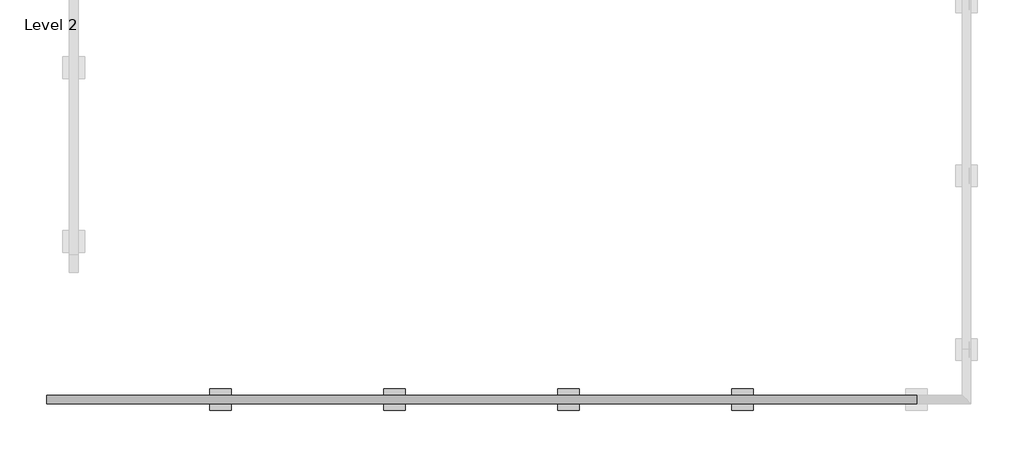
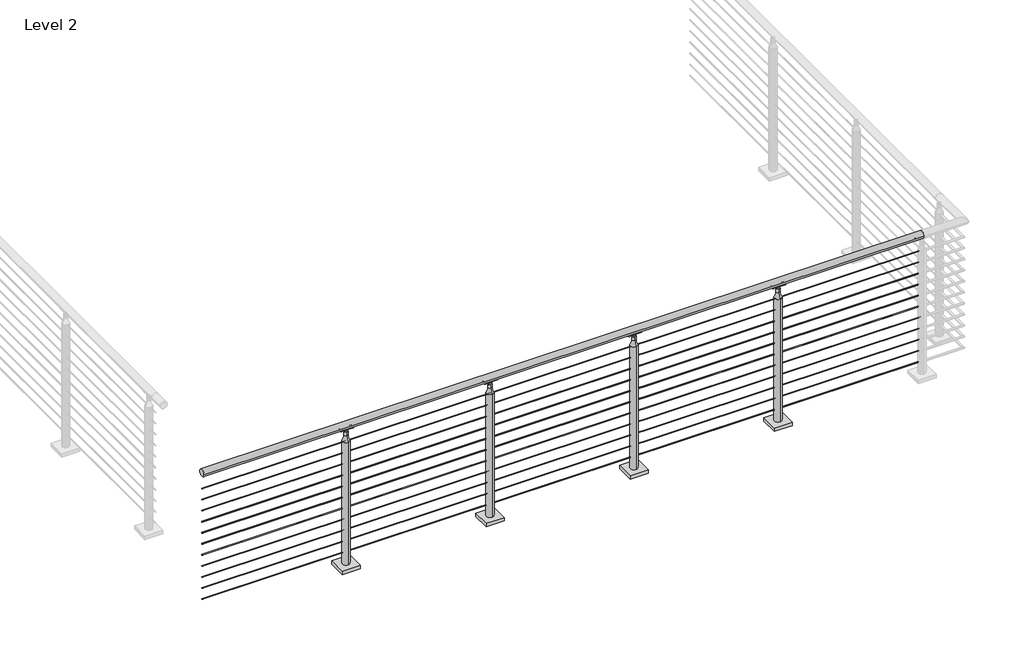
# One storey, part 11 of 21: 1 railing.
"""IFC4 building model written with IfcOpenShell, lengths in millimetres."""

from ifc_helpers import new_model, si_unit, point, frame, frame_2d, origin, place, context, project, spatial, polyline, circle_curve, ellipse_curve, trimmed, segment, composite_curve, outline, extrude, element, save
from ifc_brep_helpers import plane_surface, cylinder_surface, revolved_surface, advanced_brep

model = new_model("IFC4")

# Units and contexts
model_context = context("Model", 3, world=origin())
ifc_project = project(units=[si_unit("LENGTHUNIT", "METRE", prefix="MILLI")], contexts=[model_context])

# Site, building, storey
site = spatial("IfcSite", under=ifc_project)
building = spatial("IfcBuilding", under=site)
storey = spatial("IfcBuildingStorey", under=building, Name="Level 2", Elevation=3048.0)

# Railing
placement = place(None, origin())
element("IfcRailing", 1, ObjectType="VIVA-CIRCA-Cable-Floor Mount-Straight", at=placement, inside=storey, context=model_context, shape_type="SolidModel", body=[
    extrude(outline(composite_curve([segment(trimmed(circle_curve(frame_2d((-52104.7426165, 4102.1)), 25.4), [point((-52130.1426165, 4102.1))], [point((-52079.3426165, 4102.1))], False, "CARTESIAN"), True, "CONTINUOUS"), segment(trimmed(circle_curve(frame_2d((-52104.7426165, 4102.1)), 25.4), [point((-52079.3426165, 4102.1))], [point((-52130.1426165, 4102.1))], False, "CARTESIAN"), True, "CONTINUOUS")], self_intersect=False)), frame((15443.0072927, 0.0, 0.0), z_axis=(1.0, 0.0, 0.0), x_axis=(0.0, 1.0, 0.0)), (0.0, 0.0, 1.0), 5080.0),
    extrude(outline(composite_curve([segment(trimmed(circle_curve(frame_2d((-52104.7426165, 3985.4124)), 2.3876), [point((-52102.3550165, 3985.4124))], [point((-52107.1302165, 3985.4124))], False, "CARTESIAN"), True, "CONTINUOUS"), segment(trimmed(circle_curve(frame_2d((-52104.7426165, 3985.4124)), 2.3876), [point((-52107.1302165, 3985.4124))], [point((-52102.3550165, 3985.4124))], False, "CARTESIAN"), True, "CONTINUOUS")], self_intersect=False)), frame((15443.0072927, 0.0, 0.0), z_axis=(1.0, 0.0, 0.0), x_axis=(0.0, 1.0, 0.0)), (0.0, 0.0, 1.0), 5080.0),
    extrude(outline(composite_curve([segment(trimmed(circle_curve(frame_2d((-52104.7426165, 3902.8624)), 2.3876), [point((-52102.3550165, 3902.8624))], [point((-52107.1302165, 3902.8624))], False, "CARTESIAN"), True, "CONTINUOUS"), segment(trimmed(circle_curve(frame_2d((-52104.7426165, 3902.8624)), 2.3876), [point((-52107.1302165, 3902.8624))], [point((-52102.3550165, 3902.8624))], False, "CARTESIAN"), True, "CONTINUOUS")], self_intersect=False)), frame((15443.0072927, 0.0, 0.0), z_axis=(1.0, 0.0, 0.0), x_axis=(0.0, 1.0, 0.0)), (0.0, 0.0, 1.0), 5080.0),
    extrude(outline(composite_curve([segment(trimmed(circle_curve(frame_2d((-52104.7426165, 3820.3124)), 2.3876), [point((-52102.3550165, 3820.3124))], [point((-52107.1302165, 3820.3124))], False, "CARTESIAN"), True, "CONTINUOUS"), segment(trimmed(circle_curve(frame_2d((-52104.7426165, 3820.3124)), 2.3876), [point((-52107.1302165, 3820.3124))], [point((-52102.3550165, 3820.3124))], False, "CARTESIAN"), True, "CONTINUOUS")], self_intersect=False)), frame((15443.0072927, 0.0, 0.0), z_axis=(1.0, 0.0, 0.0), x_axis=(0.0, 1.0, 0.0)), (0.0, 0.0, 1.0), 5080.0),
    extrude(outline(composite_curve([segment(trimmed(circle_curve(frame_2d((-52104.7426165, 3737.7624)), 2.3876), [point((-52102.3550165, 3737.7624))], [point((-52107.1302165, 3737.7624))], False, "CARTESIAN"), True, "CONTINUOUS"), segment(trimmed(circle_curve(frame_2d((-52104.7426165, 3737.7624)), 2.3876), [point((-52107.1302165, 3737.7624))], [point((-52102.3550165, 3737.7624))], False, "CARTESIAN"), True, "CONTINUOUS")], self_intersect=False)), frame((15443.0072927, 0.0, 0.0), z_axis=(1.0, 0.0, 0.0), x_axis=(0.0, 1.0, 0.0)), (0.0, 0.0, 1.0), 5080.0),
    extrude(outline(composite_curve([segment(trimmed(circle_curve(frame_2d((-52104.7426165, 3655.2124)), 2.3876), [point((-52102.3550165, 3655.2124))], [point((-52107.1302165, 3655.2124))], False, "CARTESIAN"), True, "CONTINUOUS"), segment(trimmed(circle_curve(frame_2d((-52104.7426165, 3655.2124)), 2.3876), [point((-52107.1302165, 3655.2124))], [point((-52102.3550165, 3655.2124))], False, "CARTESIAN"), True, "CONTINUOUS")], self_intersect=False)), frame((15443.0072927, 0.0, 0.0), z_axis=(1.0, 0.0, 0.0), x_axis=(0.0, 1.0, 0.0)), (0.0, 0.0, 1.0), 5080.0),
    extrude(outline(composite_curve([segment(trimmed(circle_curve(frame_2d((-52104.7426165, 3572.6624)), 2.3876), [point((-52102.3550165, 3572.6624))], [point((-52107.1302165, 3572.6624))], False, "CARTESIAN"), True, "CONTINUOUS"), segment(trimmed(circle_curve(frame_2d((-52104.7426165, 3572.6624)), 2.3876), [point((-52107.1302165, 3572.6624))], [point((-52102.3550165, 3572.6624))], False, "CARTESIAN"), True, "CONTINUOUS")], self_intersect=False)), frame((15443.0072927, 0.0, 0.0), z_axis=(1.0, 0.0, 0.0), x_axis=(0.0, 1.0, 0.0)), (0.0, 0.0, 1.0), 5080.0),
    extrude(outline(composite_curve([segment(trimmed(circle_curve(frame_2d((-52104.7426165, 3490.1124)), 2.3876), [point((-52102.3550165, 3490.1124))], [point((-52107.1302165, 3490.1124))], False, "CARTESIAN"), True, "CONTINUOUS"), segment(trimmed(circle_curve(frame_2d((-52104.7426165, 3490.1124)), 2.3876), [point((-52107.1302165, 3490.1124))], [point((-52102.3550165, 3490.1124))], False, "CARTESIAN"), True, "CONTINUOUS")], self_intersect=False)), frame((15443.0072927, 0.0, 0.0), z_axis=(1.0, 0.0, 0.0), x_axis=(0.0, 1.0, 0.0)), (0.0, 0.0, 1.0), 5080.0),
    extrude(outline(composite_curve([segment(trimmed(circle_curve(frame_2d((-52104.7426165, 3407.5624)), 2.3876), [point((-52102.3550165, 3407.5624))], [point((-52107.1302165, 3407.5624))], False, "CARTESIAN"), True, "CONTINUOUS"), segment(trimmed(circle_curve(frame_2d((-52104.7426165, 3407.5624)), 2.3876), [point((-52107.1302165, 3407.5624))], [point((-52102.3550165, 3407.5624))], False, "CARTESIAN"), True, "CONTINUOUS")], self_intersect=False)), frame((15443.0072927, 0.0, 0.0), z_axis=(1.0, 0.0, 0.0), x_axis=(0.0, 1.0, 0.0)), (0.0, 0.0, 1.0), 5080.0),
    extrude(outline(composite_curve([segment(trimmed(circle_curve(frame_2d((-52104.7426165, 3325.0124)), 2.3876), [point((-52102.3550165, 3325.0124))], [point((-52107.1302165, 3325.0124))], False, "CARTESIAN"), True, "CONTINUOUS"), segment(trimmed(circle_curve(frame_2d((-52104.7426165, 3325.0124)), 2.3876), [point((-52107.1302165, 3325.0124))], [point((-52102.3550165, 3325.0124))], False, "CARTESIAN"), True, "CONTINUOUS")], self_intersect=False)), frame((15443.0072927, 0.0, 0.0), z_axis=(1.0, 0.0, 0.0), x_axis=(0.0, 1.0, 0.0)), (0.0, 0.0, 1.0), 5080.0),
    extrude(outline(composite_curve([segment(trimmed(circle_curve(frame_2d((-52104.7426165, 3242.4624)), 2.3876), [point((-52102.3550165, 3242.4624))], [point((-52107.1302165, 3242.4624))], False, "CARTESIAN"), True, "CONTINUOUS"), segment(trimmed(circle_curve(frame_2d((-52104.7426165, 3242.4624)), 2.3876), [point((-52107.1302165, 3242.4624))], [point((-52102.3550165, 3242.4624))], False, "CARTESIAN"), True, "CONTINUOUS")], self_intersect=False)), frame((15443.0072927, 0.0, 0.0), z_axis=(1.0, 0.0, 0.0), x_axis=(0.0, 1.0, 0.0)), (0.0, 0.0, 1.0), 5080.0),
    extrude(outline(composite_curve([segment(trimmed(circle_curve(frame_2d((-52104.7426165, 3159.9124)), 2.3876), [point((-52102.3550165, 3159.9124))], [point((-52107.1302165, 3159.9124))], False, "CARTESIAN"), True, "CONTINUOUS"), segment(trimmed(circle_curve(frame_2d((-52104.7426165, 3159.9124)), 2.3876), [point((-52107.1302165, 3159.9124))], [point((-52102.3550165, 3159.9124))], False, "CARTESIAN"), True, "CONTINUOUS")], self_intersect=False)), frame((15443.0072927, 0.0, 0.0), z_axis=(1.0, 0.0, 0.0), x_axis=(0.0, 1.0, 0.0)), (0.0, 0.0, 1.0), 5080.0),
    extrude(outline(composite_curve([segment(trimmed(circle_curve(frame_2d((-52104.6458882, 4103.4254922)), 25.4345159), [point((-52117.2096911, 4081.3106679))], [point((-52092.2506544, 4081.2157471))], True, "CARTESIAN"), True, "CONTINUOUS"), segment(trimmed(circle_curve(frame_2d((-52091.0060013, 4078.7132623)), 2.7949225), [point((-52092.2506544, 4081.2157471))], [point((-52089.5286962, 4076.3406769))], False, "CARTESIAN"), True, "CONTINUOUS"), segment(trimmed(circle_curve(frame_2d((-52104.7793513, 4104.1881188)), 31.75), [point((-52089.5286962, 4076.3406769))], [point((-52121.0455885, 4076.9214354))], False, "CARTESIAN"), True, "CONTINUOUS"), segment(trimmed(circle_curve(frame_2d((-52118.7572487, 4078.7923545)), 2.9558141), [point((-52121.0455885, 4076.9214354))], [point((-52117.2096911, 4081.3106679))], False, "CARTESIAN"), True, "CONTINUOUS")], self_intersect=False)), frame((19462.1667677, 0.0, 0.0), z_axis=(1.0, 0.0, 0.0), x_axis=(0.0, 1.0, 0.0)), (0.0, 0.0, 1.0), 90.4748),
    advanced_brep(
    [(19534.4720826, -52102.2026165, 4072.6506908), (19520.1041677, -52102.2026165, 4058.282776), (19494.7041677, -52102.2026165, 4058.282776), (19480.3362528, -52102.2026165, 4072.6506908), (19534.4720826, -52107.2826165, 4072.6506908), (19480.3362528, -52107.2826165, 4072.6506908), (19494.7041677, -52107.2826165, 4058.282776), (19520.1041677, -52107.2826165, 4058.282776)],
    [
        (0, 1, circle_curve(frame((19534.4720826, -52102.2026165, 4058.282776), z_axis=(0.0, -1.0, 0.0), x_axis=(-1.0, 0.0, 0.0)), 14.3679149)),
        (1, 2, circle_curve(frame((19507.4041677, -52102.2026165, 4058.282776), z_axis=(0.0, 1.0, 0.0), x_axis=(-1.0, 0.0, 0.0)), 12.7)),
        (2, 3, circle_curve(frame((19480.3362528, -52102.2026165, 4058.282776), z_axis=(0.0, -1.0, 0.0), x_axis=(-1.0, 0.0, 0.0)), 14.3679149)),
        (3, 0),
        (4, 5),
        (5, 6, circle_curve(frame((19480.3362528, -52107.2826165, 4058.282776), z_axis=(0.0, 1.0, 0.0), x_axis=(-1.0, 0.0, 0.0)), 14.3679149)),
        (6, 7, circle_curve(frame((19507.4041677, -52107.2826165, 4058.282776), z_axis=(0.0, -1.0, 0.0), x_axis=(-1.0, 0.0, 0.0)), 12.7)),
        (7, 4, circle_curve(frame((19534.4720826, -52107.2826165, 4058.282776), z_axis=(0.0, 1.0, 0.0), x_axis=(-1.0, 0.0, 0.0)), 14.3679149)),
        (0, 4),
        (7, 1),
        (6, 2),
        (5, 3),
    ],
    [
        plane_surface(frame((19520.1041677, -52102.2026165, 4058.282776), z_axis=(0.0, 1.0, 0.0), x_axis=(0.0, 0.0, -1.0))),
        plane_surface(frame((19520.1041677, -52107.2826165, 4058.282776), z_axis=(0.0, -1.0, 0.0), x_axis=(0.0, 0.0, 1.0))),
        revolved_surface(polyline([(19520.1041677, -52107.2826165, 4058.282776), (19520.1041677, -52102.2026165, 4058.282776)]), (19534.4720826, -52107.2826165, 4058.282776), (0.0, -1.0, 0.0)),
        cylinder_surface(frame((19507.4041677, -52107.2826165, 4058.282776), z_axis=(0.0, 1.0, 0.0), x_axis=(-1.0, 0.0, 0.0)), 12.7),
        revolved_surface(polyline([(19465.968337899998, -52107.2826165, 4058.282776), (19465.968337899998, -52102.2026165, 4058.282776)]), (19480.3362528, -52107.2826165, 4058.282776), (0.0, -1.0, 0.0)),
        plane_surface(frame((19480.3362528, -52102.2026165, 4072.6506908), z_axis=(0.0, 0.0, 1.0), x_axis=(0.0, -1.0, 0.0))),
    ],
    [
        (0, [[1, 2, 3, 4]]),
        (1, [[5, 6, 7, 8]]),
        (2, [[-1, 9, -8, 10]]),
        (3, [[-2, -10, -7, 11]]),
        (4, [[-3, -11, -6, 12]]),
        (5, [[-4, -12, -5, -9]]),
    ],
),
    extrude(outline(polyline([(19443.9041677, -52168.2426165), (19443.9041677, -52041.2426165), (19570.9041677, -52041.2426165), (19570.9041677, -52168.2426165), (19443.9041677, -52168.2426165)])), frame((0.0, 0.0, 3048.0), z_axis=(0.0, 0.0, 1.0), x_axis=(1.0, 0.0, 0.0)), (0.0, 0.0, 1.0), 25.4),
    advanced_brep(
    [(19507.4041677, -52130.1420143, 3989.1347854), (19507.4041677, -52079.3432187, 3989.1347854), (19507.4041677, -52079.3432187, 3073.4), (19507.4041677, -52130.1420143, 3073.4), (19507.4041677, -52117.4805851, 4027.3486202), (19507.4041677, -52092.004648, 4027.3486202), (19507.4041677, -52117.4805851, 4056.5779599), (19507.4041677, -52092.004648, 4056.5779599), (19507.4041677, -52104.7426165, 4063.238668), (19507.4041677, -52104.7426165, 3073.4)],
    [
        (0, 1, circle_curve(frame((19507.4041677, -52104.7426165, 3989.1347854), z_axis=(0.0, 0.0, -1.0), x_axis=(0.0, 1.0, 0.0)), 25.3993978)),
        (1, 2),
        (2, 3, circle_curve(frame((19507.4041677, -52104.7426165, 3073.4), z_axis=(0.0, 0.0, 1.0), x_axis=(0.0, 1.0, 0.0)), 25.3993978)),
        (3, 0),
        (1, 0, circle_curve(frame((19507.4041677, -52104.7426165, 3989.1347854), z_axis=(0.0, 0.0, -1.0), x_axis=(0.0, 1.0, 0.0)), 25.3993978)),
        (3, 2, circle_curve(frame((19507.4041677, -52104.7426165, 3073.4), z_axis=(0.0, 0.0, 1.0), x_axis=(0.0, 1.0, 0.0)), 25.3993978)),
        (4, 5, circle_curve(frame((19507.4041677, -52104.7426165, 4027.3486202), z_axis=(0.0, 0.0, -1.0), x_axis=(0.0, 1.0, 0.0)), 12.7379685)),
        (5, 1, circle_curve(frame((19507.4041677, -52028.0067797, 4027.3486202), z_axis=(1.0, 0.0, 0.0), x_axis=(0.0, 1.0, 0.0)), 63.9978683)),
        (0, 4, circle_curve(frame((19507.4041677, -52181.4784534, 4027.3486202), z_axis=(1.0, 0.0, 0.0), x_axis=(0.0, -1.0, 0.0)), 63.9978683)),
        (5, 4, circle_curve(frame((19507.4041677, -52104.7426165, 4027.3486202), z_axis=(0.0, 0.0, -1.0), x_axis=(0.0, 1.0, 0.0)), 12.7379685)),
        (6, 7, circle_curve(frame((19507.4041677, -52104.7426165, 4056.5779599), z_axis=(0.0, 0.0, -1.0), x_axis=(0.0, 1.0, 0.0)), 12.7379685)),
        (7, 5),
        (4, 6),
        (7, 6, circle_curve(frame((19507.4041677, -52104.7426165, 4056.5779599), z_axis=(0.0, 0.0, -1.0), x_axis=(0.0, 1.0, 0.0)), 12.7379685)),
        (8, 7, circle_curve(frame((19507.4041677, -52104.7426165, 4047.7282394), z_axis=(-1.0, 0.0, 0.0), x_axis=(0.0, 1.0, 0.0)), 15.5104286)),
        (6, 8, circle_curve(frame((19507.4041677, -52104.7426165, 4047.7282394), z_axis=(-1.0, 0.0, 0.0), x_axis=(0.0, -1.0, 0.0)), 15.5104286)),
        (2, 9),
        (9, 3),
    ],
    [
        cylinder_surface(frame((19507.4041677, -52104.7426165, 4152.9), z_axis=(0.0, 0.0, 1.0), x_axis=(0.0, 1.0, 0.0)), 25.3993978),
        revolved_surface(trimmed(ellipse_curve(frame((19507.4041677, -52028.0067797, 4027.3486202), z_axis=(-1.0, 0.0, 0.0), x_axis=(0.0, 1.0, 0.0)), 63.9978683, 63.9978683), [point((19507.4041677, -52079.3432187, 3989.1347854))], [point((19507.4041677, -52092.004648, 4027.3486202))], True, "CARTESIAN"), (19507.4041677, -52104.7426165, 4152.9), (0.0, 0.0, 1.0)),
        cylinder_surface(frame((19507.4041677, -52104.7426165, 4152.9), z_axis=(0.0, 0.0, 1.0), x_axis=(0.0, 1.0, 0.0)), 12.7379685),
        revolved_surface(trimmed(ellipse_curve(frame((19507.4041677, -52104.7426165, 4047.7282394), z_axis=(1.0, 0.0, 0.0), x_axis=(0.0, 1.0, 0.0)), 15.5104286, 15.5104286), [point((19507.4041677, -52092.004648, 4056.5779599))], [point((19507.4041677, -52104.7426165, 4063.238668))], True, "CARTESIAN"), (19507.4041677, -52104.7426165, 4152.9), (0.0, 0.0, 1.0)),
        plane_surface(frame((19507.4041677, -52104.7426165, 3073.4), z_axis=(0.0, 0.0, -1.0), x_axis=(0.0, 1.0, 0.0))),
    ],
    [
        (0, [[1, 2, 3, 4]]),
        (0, [[5, -4, 6, -2]]),
        (1, [[7, 8, -1, 9]]),
        (1, [[10, -9, -5, -8]]),
        (2, [[11, 12, -7, 13]]),
        (2, [[14, -13, -10, -12]]),
        (3, [[15, -11, 16]]),
        (3, [[-16, -14, -15]]),
        (4, [[-3, 17, 18]]),
        (4, [[-6, -18, -17]]),
    ],
),
    extrude(outline(composite_curve([segment(trimmed(circle_curve(frame_2d((-52104.6458882, 4103.4254922)), 25.4345159), [point((-52117.2096911, 4081.3106679))], [point((-52092.2506544, 4081.2157471))], True, "CARTESIAN"), True, "CONTINUOUS"), segment(trimmed(circle_curve(frame_2d((-52091.0060013, 4078.7132623)), 2.7949225), [point((-52092.2506544, 4081.2157471))], [point((-52089.5286962, 4076.3406769))], False, "CARTESIAN"), True, "CONTINUOUS"), segment(trimmed(circle_curve(frame_2d((-52104.7793513, 4104.1881188)), 31.75), [point((-52089.5286962, 4076.3406769))], [point((-52121.0455885, 4076.9214354))], False, "CARTESIAN"), True, "CONTINUOUS"), segment(trimmed(circle_curve(frame_2d((-52118.7572487, 4078.7923545)), 2.9558141), [point((-52121.0455885, 4076.9214354))], [point((-52117.2096911, 4081.3106679))], False, "CARTESIAN"), True, "CONTINUOUS")], self_intersect=False)), frame((18446.1667677, 0.0, 0.0), z_axis=(1.0, 0.0, 0.0), x_axis=(0.0, 1.0, 0.0)), (0.0, 0.0, 1.0), 90.4748),
    advanced_brep(
    [(18518.4720826, -52102.2026165, 4072.6506908), (18504.1041677, -52102.2026165, 4058.282776), (18478.7041677, -52102.2026165, 4058.282776), (18464.3362528, -52102.2026165, 4072.6506908), (18518.4720826, -52107.2826165, 4072.6506908), (18464.3362528, -52107.2826165, 4072.6506908), (18478.7041677, -52107.2826165, 4058.282776), (18504.1041677, -52107.2826165, 4058.282776)],
    [
        (0, 1, circle_curve(frame((18518.4720826, -52102.2026165, 4058.282776), z_axis=(0.0, -1.0, 0.0), x_axis=(-1.0, 0.0, 0.0)), 14.3679149)),
        (1, 2, circle_curve(frame((18491.4041677, -52102.2026165, 4058.282776), z_axis=(0.0, 1.0, 0.0), x_axis=(-1.0, 0.0, 0.0)), 12.7)),
        (2, 3, circle_curve(frame((18464.3362528, -52102.2026165, 4058.282776), z_axis=(0.0, -1.0, 0.0), x_axis=(-1.0, 0.0, 0.0)), 14.3679149)),
        (3, 0),
        (4, 5),
        (5, 6, circle_curve(frame((18464.3362528, -52107.2826165, 4058.282776), z_axis=(0.0, 1.0, 0.0), x_axis=(-1.0, 0.0, 0.0)), 14.3679149)),
        (6, 7, circle_curve(frame((18491.4041677, -52107.2826165, 4058.282776), z_axis=(0.0, -1.0, 0.0), x_axis=(-1.0, 0.0, 0.0)), 12.7)),
        (7, 4, circle_curve(frame((18518.4720826, -52107.2826165, 4058.282776), z_axis=(0.0, 1.0, 0.0), x_axis=(-1.0, 0.0, 0.0)), 14.3679149)),
        (0, 4),
        (7, 1),
        (6, 2),
        (5, 3),
    ],
    [
        plane_surface(frame((18504.1041677, -52102.2026165, 4058.282776), z_axis=(0.0, 1.0, 0.0), x_axis=(0.0, 0.0, -1.0))),
        plane_surface(frame((18504.1041677, -52107.2826165, 4058.282776), z_axis=(0.0, -1.0, 0.0), x_axis=(0.0, 0.0, 1.0))),
        revolved_surface(polyline([(18504.1041677, -52107.2826165, 4058.282776), (18504.1041677, -52102.2026165, 4058.282776)]), (18518.4720826, -52107.2826165, 4058.282776), (0.0, -1.0, 0.0)),
        cylinder_surface(frame((18491.4041677, -52107.2826165, 4058.282776), z_axis=(0.0, 1.0, 0.0), x_axis=(-1.0, 0.0, 0.0)), 12.7),
        revolved_surface(polyline([(18449.968337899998, -52107.2826165, 4058.282776), (18449.968337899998, -52102.2026165, 4058.282776)]), (18464.3362528, -52107.2826165, 4058.282776), (0.0, -1.0, 0.0)),
        plane_surface(frame((18464.3362528, -52102.2026165, 4072.6506908), z_axis=(0.0, 0.0, 1.0), x_axis=(0.0, -1.0, 0.0))),
    ],
    [
        (0, [[1, 2, 3, 4]]),
        (1, [[5, 6, 7, 8]]),
        (2, [[-1, 9, -8, 10]]),
        (3, [[-2, -10, -7, 11]]),
        (4, [[-3, -11, -6, 12]]),
        (5, [[-4, -12, -5, -9]]),
    ],
),
    extrude(outline(polyline([(18427.9041677, -52168.2426165), (18427.9041677, -52041.2426165), (18554.9041677, -52041.2426165), (18554.9041677, -52168.2426165), (18427.9041677, -52168.2426165)])), frame((0.0, 0.0, 3048.0), z_axis=(0.0, 0.0, 1.0), x_axis=(1.0, 0.0, 0.0)), (0.0, 0.0, 1.0), 25.4),
    advanced_brep(
    [(18491.4041677, -52130.1420143, 3989.1347854), (18491.4041677, -52079.3432187, 3989.1347854), (18491.4041677, -52079.3432187, 3073.4), (18491.4041677, -52130.1420143, 3073.4), (18491.4041677, -52117.4805851, 4027.3486202), (18491.4041677, -52092.004648, 4027.3486202), (18491.4041677, -52117.4805851, 4056.5779599), (18491.4041677, -52092.004648, 4056.5779599), (18491.4041677, -52104.7426165, 4063.238668), (18491.4041677, -52104.7426165, 3073.4)],
    [
        (0, 1, circle_curve(frame((18491.4041677, -52104.7426165, 3989.1347854), z_axis=(0.0, 0.0, -1.0), x_axis=(0.0, 1.0, 0.0)), 25.3993978)),
        (1, 2),
        (2, 3, circle_curve(frame((18491.4041677, -52104.7426165, 3073.4), z_axis=(0.0, 0.0, 1.0), x_axis=(0.0, 1.0, 0.0)), 25.3993978)),
        (3, 0),
        (1, 0, circle_curve(frame((18491.4041677, -52104.7426165, 3989.1347854), z_axis=(0.0, 0.0, -1.0), x_axis=(0.0, 1.0, 0.0)), 25.3993978)),
        (3, 2, circle_curve(frame((18491.4041677, -52104.7426165, 3073.4), z_axis=(0.0, 0.0, 1.0), x_axis=(0.0, 1.0, 0.0)), 25.3993978)),
        (4, 5, circle_curve(frame((18491.4041677, -52104.7426165, 4027.3486202), z_axis=(0.0, 0.0, -1.0), x_axis=(0.0, 1.0, 0.0)), 12.7379685)),
        (5, 1, circle_curve(frame((18491.4041677, -52028.0067797, 4027.3486202), z_axis=(1.0, 0.0, 0.0), x_axis=(0.0, 1.0, 0.0)), 63.9978683)),
        (0, 4, circle_curve(frame((18491.4041677, -52181.4784534, 4027.3486202), z_axis=(1.0, 0.0, 0.0), x_axis=(0.0, -1.0, 0.0)), 63.9978683)),
        (5, 4, circle_curve(frame((18491.4041677, -52104.7426165, 4027.3486202), z_axis=(0.0, 0.0, -1.0), x_axis=(0.0, 1.0, 0.0)), 12.7379685)),
        (6, 7, circle_curve(frame((18491.4041677, -52104.7426165, 4056.5779599), z_axis=(0.0, 0.0, -1.0), x_axis=(0.0, 1.0, 0.0)), 12.7379685)),
        (7, 5),
        (4, 6),
        (7, 6, circle_curve(frame((18491.4041677, -52104.7426165, 4056.5779599), z_axis=(0.0, 0.0, -1.0), x_axis=(0.0, 1.0, 0.0)), 12.7379685)),
        (8, 7, circle_curve(frame((18491.4041677, -52104.7426165, 4047.7282394), z_axis=(-1.0, 0.0, 0.0), x_axis=(0.0, 1.0, 0.0)), 15.5104286)),
        (6, 8, circle_curve(frame((18491.4041677, -52104.7426165, 4047.7282394), z_axis=(-1.0, 0.0, 0.0), x_axis=(0.0, -1.0, 0.0)), 15.5104286)),
        (2, 9),
        (9, 3),
    ],
    [
        cylinder_surface(frame((18491.4041677, -52104.7426165, 4152.9), z_axis=(0.0, 0.0, 1.0), x_axis=(0.0, 1.0, 0.0)), 25.3993978),
        revolved_surface(trimmed(ellipse_curve(frame((18491.4041677, -52028.0067797, 4027.3486202), z_axis=(-1.0, 0.0, 0.0), x_axis=(0.0, 1.0, 0.0)), 63.9978683, 63.9978683), [point((18491.4041677, -52079.3432187, 3989.1347854))], [point((18491.4041677, -52092.004648, 4027.3486202))], True, "CARTESIAN"), (18491.4041677, -52104.7426165, 4152.9), (0.0, 0.0, 1.0)),
        cylinder_surface(frame((18491.4041677, -52104.7426165, 4152.9), z_axis=(0.0, 0.0, 1.0), x_axis=(0.0, 1.0, 0.0)), 12.7379685),
        revolved_surface(trimmed(ellipse_curve(frame((18491.4041677, -52104.7426165, 4047.7282394), z_axis=(1.0, 0.0, 0.0), x_axis=(0.0, 1.0, 0.0)), 15.5104286, 15.5104286), [point((18491.4041677, -52092.004648, 4056.5779599))], [point((18491.4041677, -52104.7426165, 4063.238668))], True, "CARTESIAN"), (18491.4041677, -52104.7426165, 4152.9), (0.0, 0.0, 1.0)),
        plane_surface(frame((18491.4041677, -52104.7426165, 3073.4), z_axis=(0.0, 0.0, -1.0), x_axis=(0.0, 1.0, 0.0))),
    ],
    [
        (0, [[1, 2, 3, 4]]),
        (0, [[5, -4, 6, -2]]),
        (1, [[7, 8, -1, 9]]),
        (1, [[10, -9, -5, -8]]),
        (2, [[11, 12, -7, 13]]),
        (2, [[14, -13, -10, -12]]),
        (3, [[15, -11, 16]]),
        (3, [[-16, -14, -15]]),
        (4, [[-3, 17, 18]]),
        (4, [[-6, -18, -17]]),
    ],
),
    extrude(outline(composite_curve([segment(trimmed(circle_curve(frame_2d((-52104.6458882, 4103.4254922)), 25.4345159), [point((-52117.2096911, 4081.3106679))], [point((-52092.2506544, 4081.2157471))], True, "CARTESIAN"), True, "CONTINUOUS"), segment(trimmed(circle_curve(frame_2d((-52091.0060013, 4078.7132623)), 2.7949225), [point((-52092.2506544, 4081.2157471))], [point((-52089.5286962, 4076.3406769))], False, "CARTESIAN"), True, "CONTINUOUS"), segment(trimmed(circle_curve(frame_2d((-52104.7793513, 4104.1881188)), 31.75), [point((-52089.5286962, 4076.3406769))], [point((-52121.0455885, 4076.9214354))], False, "CARTESIAN"), True, "CONTINUOUS"), segment(trimmed(circle_curve(frame_2d((-52118.7572487, 4078.7923545)), 2.9558141), [point((-52121.0455885, 4076.9214354))], [point((-52117.2096911, 4081.3106679))], False, "CARTESIAN"), True, "CONTINUOUS")], self_intersect=False)), frame((17430.1667677, 0.0, 0.0), z_axis=(1.0, 0.0, 0.0), x_axis=(0.0, 1.0, 0.0)), (0.0, 0.0, 1.0), 90.4748),
    advanced_brep(
    [(17502.4720826, -52102.2026165, 4072.6506908), (17488.1041677, -52102.2026165, 4058.282776), (17462.7041677, -52102.2026165, 4058.282776), (17448.3362528, -52102.2026165, 4072.6506908), (17502.4720826, -52107.2826165, 4072.6506908), (17448.3362528, -52107.2826165, 4072.6506908), (17462.7041677, -52107.2826165, 4058.282776), (17488.1041677, -52107.2826165, 4058.282776)],
    [
        (0, 1, circle_curve(frame((17502.4720826, -52102.2026165, 4058.282776), z_axis=(0.0, -1.0, 0.0), x_axis=(-1.0, 0.0, 0.0)), 14.3679149)),
        (1, 2, circle_curve(frame((17475.4041677, -52102.2026165, 4058.282776), z_axis=(0.0, 1.0, 0.0), x_axis=(-1.0, 0.0, 0.0)), 12.7)),
        (2, 3, circle_curve(frame((17448.3362528, -52102.2026165, 4058.282776), z_axis=(0.0, -1.0, 0.0), x_axis=(-1.0, 0.0, 0.0)), 14.3679149)),
        (3, 0),
        (4, 5),
        (5, 6, circle_curve(frame((17448.3362528, -52107.2826165, 4058.282776), z_axis=(0.0, 1.0, 0.0), x_axis=(-1.0, 0.0, 0.0)), 14.3679149)),
        (6, 7, circle_curve(frame((17475.4041677, -52107.2826165, 4058.282776), z_axis=(0.0, -1.0, 0.0), x_axis=(-1.0, 0.0, 0.0)), 12.7)),
        (7, 4, circle_curve(frame((17502.4720826, -52107.2826165, 4058.282776), z_axis=(0.0, 1.0, 0.0), x_axis=(-1.0, 0.0, 0.0)), 14.3679149)),
        (0, 4),
        (7, 1),
        (6, 2),
        (5, 3),
    ],
    [
        plane_surface(frame((17488.1041677, -52102.2026165, 4058.282776), z_axis=(0.0, 1.0, 0.0), x_axis=(0.0, 0.0, -1.0))),
        plane_surface(frame((17488.1041677, -52107.2826165, 4058.282776), z_axis=(0.0, -1.0, 0.0), x_axis=(0.0, 0.0, 1.0))),
        revolved_surface(polyline([(17488.1041677, -52107.2826165, 4058.282776), (17488.1041677, -52102.2026165, 4058.282776)]), (17502.4720826, -52107.2826165, 4058.282776), (0.0, -1.0, 0.0)),
        cylinder_surface(frame((17475.4041677, -52107.2826165, 4058.282776), z_axis=(0.0, 1.0, 0.0), x_axis=(-1.0, 0.0, 0.0)), 12.7),
        revolved_surface(polyline([(17433.968337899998, -52107.2826165, 4058.282776), (17433.968337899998, -52102.2026165, 4058.282776)]), (17448.3362528, -52107.2826165, 4058.282776), (0.0, -1.0, 0.0)),
        plane_surface(frame((17448.3362528, -52102.2026165, 4072.6506908), z_axis=(0.0, 0.0, 1.0), x_axis=(0.0, -1.0, 0.0))),
    ],
    [
        (0, [[1, 2, 3, 4]]),
        (1, [[5, 6, 7, 8]]),
        (2, [[-1, 9, -8, 10]]),
        (3, [[-2, -10, -7, 11]]),
        (4, [[-3, -11, -6, 12]]),
        (5, [[-4, -12, -5, -9]]),
    ],
),
    extrude(outline(polyline([(17411.9041677, -52168.2426165), (17411.9041677, -52041.2426165), (17538.9041677, -52041.2426165), (17538.9041677, -52168.2426165), (17411.9041677, -52168.2426165)])), frame((0.0, 0.0, 3048.0), z_axis=(0.0, 0.0, 1.0), x_axis=(1.0, 0.0, 0.0)), (0.0, 0.0, 1.0), 25.4),
    advanced_brep(
    [(17475.4041677, -52130.1420143, 3989.1347854), (17475.4041677, -52079.3432187, 3989.1347854), (17475.4041677, -52079.3432187, 3073.4), (17475.4041677, -52130.1420143, 3073.4), (17475.4041677, -52117.4805851, 4027.3486202), (17475.4041677, -52092.004648, 4027.3486202), (17475.4041677, -52117.4805851, 4056.5779599), (17475.4041677, -52092.004648, 4056.5779599), (17475.4041677, -52104.7426165, 4063.238668), (17475.4041677, -52104.7426165, 3073.4)],
    [
        (0, 1, circle_curve(frame((17475.4041677, -52104.7426165, 3989.1347854), z_axis=(0.0, 0.0, -1.0), x_axis=(0.0, 1.0, 0.0)), 25.3993978)),
        (1, 2),
        (2, 3, circle_curve(frame((17475.4041677, -52104.7426165, 3073.4), z_axis=(0.0, 0.0, 1.0), x_axis=(0.0, 1.0, 0.0)), 25.3993978)),
        (3, 0),
        (1, 0, circle_curve(frame((17475.4041677, -52104.7426165, 3989.1347854), z_axis=(0.0, 0.0, -1.0), x_axis=(0.0, 1.0, 0.0)), 25.3993978)),
        (3, 2, circle_curve(frame((17475.4041677, -52104.7426165, 3073.4), z_axis=(0.0, 0.0, 1.0), x_axis=(0.0, 1.0, 0.0)), 25.3993978)),
        (4, 5, circle_curve(frame((17475.4041677, -52104.7426165, 4027.3486202), z_axis=(0.0, 0.0, -1.0), x_axis=(0.0, 1.0, 0.0)), 12.7379685)),
        (5, 1, circle_curve(frame((17475.4041677, -52028.0067797, 4027.3486202), z_axis=(1.0, 0.0, 0.0), x_axis=(0.0, 1.0, 0.0)), 63.9978683)),
        (0, 4, circle_curve(frame((17475.4041677, -52181.4784534, 4027.3486202), z_axis=(1.0, 0.0, 0.0), x_axis=(0.0, -1.0, 0.0)), 63.9978683)),
        (5, 4, circle_curve(frame((17475.4041677, -52104.7426165, 4027.3486202), z_axis=(0.0, 0.0, -1.0), x_axis=(0.0, 1.0, 0.0)), 12.7379685)),
        (6, 7, circle_curve(frame((17475.4041677, -52104.7426165, 4056.5779599), z_axis=(0.0, 0.0, -1.0), x_axis=(0.0, 1.0, 0.0)), 12.7379685)),
        (7, 5),
        (4, 6),
        (7, 6, circle_curve(frame((17475.4041677, -52104.7426165, 4056.5779599), z_axis=(0.0, 0.0, -1.0), x_axis=(0.0, 1.0, 0.0)), 12.7379685)),
        (8, 7, circle_curve(frame((17475.4041677, -52104.7426165, 4047.7282394), z_axis=(-1.0, 0.0, 0.0), x_axis=(0.0, 1.0, 0.0)), 15.5104286)),
        (6, 8, circle_curve(frame((17475.4041677, -52104.7426165, 4047.7282394), z_axis=(-1.0, 0.0, 0.0), x_axis=(0.0, -1.0, 0.0)), 15.5104286)),
        (2, 9),
        (9, 3),
    ],
    [
        cylinder_surface(frame((17475.4041677, -52104.7426165, 4152.9), z_axis=(0.0, 0.0, 1.0), x_axis=(0.0, 1.0, 0.0)), 25.3993978),
        revolved_surface(trimmed(ellipse_curve(frame((17475.4041677, -52028.0067797, 4027.3486202), z_axis=(-1.0, 0.0, 0.0), x_axis=(0.0, 1.0, 0.0)), 63.9978683, 63.9978683), [point((17475.4041677, -52079.3432187, 3989.1347854))], [point((17475.4041677, -52092.004648, 4027.3486202))], True, "CARTESIAN"), (17475.4041677, -52104.7426165, 4152.9), (0.0, 0.0, 1.0)),
        cylinder_surface(frame((17475.4041677, -52104.7426165, 4152.9), z_axis=(0.0, 0.0, 1.0), x_axis=(0.0, 1.0, 0.0)), 12.7379685),
        revolved_surface(trimmed(ellipse_curve(frame((17475.4041677, -52104.7426165, 4047.7282394), z_axis=(1.0, 0.0, 0.0), x_axis=(0.0, 1.0, 0.0)), 15.5104286, 15.5104286), [point((17475.4041677, -52092.004648, 4056.5779599))], [point((17475.4041677, -52104.7426165, 4063.238668))], True, "CARTESIAN"), (17475.4041677, -52104.7426165, 4152.9), (0.0, 0.0, 1.0)),
        plane_surface(frame((17475.4041677, -52104.7426165, 3073.4), z_axis=(0.0, 0.0, -1.0), x_axis=(0.0, 1.0, 0.0))),
    ],
    [
        (0, [[1, 2, 3, 4]]),
        (0, [[5, -4, 6, -2]]),
        (1, [[7, 8, -1, 9]]),
        (1, [[10, -9, -5, -8]]),
        (2, [[11, 12, -7, 13]]),
        (2, [[14, -13, -10, -12]]),
        (3, [[15, -11, 16]]),
        (3, [[-16, -14, -15]]),
        (4, [[-3, 17, 18]]),
        (4, [[-6, -18, -17]]),
    ],
),
    extrude(outline(composite_curve([segment(trimmed(circle_curve(frame_2d((-52104.6458882, 4103.4254922)), 25.4345159), [point((-52117.2096911, 4081.3106679))], [point((-52092.2506544, 4081.2157471))], True, "CARTESIAN"), True, "CONTINUOUS"), segment(trimmed(circle_curve(frame_2d((-52091.0060013, 4078.7132623)), 2.7949225), [point((-52092.2506544, 4081.2157471))], [point((-52089.5286962, 4076.3406769))], False, "CARTESIAN"), True, "CONTINUOUS"), segment(trimmed(circle_curve(frame_2d((-52104.7793513, 4104.1881188)), 31.75), [point((-52089.5286962, 4076.3406769))], [point((-52121.0455885, 4076.9214354))], False, "CARTESIAN"), True, "CONTINUOUS"), segment(trimmed(circle_curve(frame_2d((-52118.7572487, 4078.7923545)), 2.9558141), [point((-52121.0455885, 4076.9214354))], [point((-52117.2096911, 4081.3106679))], False, "CARTESIAN"), True, "CONTINUOUS")], self_intersect=False)), frame((16414.1667677, 0.0, 0.0), z_axis=(1.0, 0.0, 0.0), x_axis=(0.0, 1.0, 0.0)), (0.0, 0.0, 1.0), 90.4748),
    advanced_brep(
    [(16486.4720826, -52102.2026165, 4072.6506908), (16472.1041677, -52102.2026165, 4058.282776), (16446.7041677, -52102.2026165, 4058.282776), (16432.3362528, -52102.2026165, 4072.6506908), (16486.4720826, -52107.2826165, 4072.6506908), (16432.3362528, -52107.2826165, 4072.6506908), (16446.7041677, -52107.2826165, 4058.282776), (16472.1041677, -52107.2826165, 4058.282776)],
    [
        (0, 1, circle_curve(frame((16486.4720826, -52102.2026165, 4058.282776), z_axis=(0.0, -1.0, 0.0), x_axis=(-1.0, 0.0, 0.0)), 14.3679149)),
        (1, 2, circle_curve(frame((16459.4041677, -52102.2026165, 4058.282776), z_axis=(0.0, 1.0, 0.0), x_axis=(-1.0, 0.0, 0.0)), 12.7)),
        (2, 3, circle_curve(frame((16432.3362528, -52102.2026165, 4058.282776), z_axis=(0.0, -1.0, 0.0), x_axis=(-1.0, 0.0, 0.0)), 14.3679149)),
        (3, 0),
        (4, 5),
        (5, 6, circle_curve(frame((16432.3362528, -52107.2826165, 4058.282776), z_axis=(0.0, 1.0, 0.0), x_axis=(-1.0, 0.0, 0.0)), 14.3679149)),
        (6, 7, circle_curve(frame((16459.4041677, -52107.2826165, 4058.282776), z_axis=(0.0, -1.0, 0.0), x_axis=(-1.0, 0.0, 0.0)), 12.7)),
        (7, 4, circle_curve(frame((16486.4720826, -52107.2826165, 4058.282776), z_axis=(0.0, 1.0, 0.0), x_axis=(-1.0, 0.0, 0.0)), 14.3679149)),
        (0, 4),
        (7, 1),
        (6, 2),
        (5, 3),
    ],
    [
        plane_surface(frame((16472.1041677, -52102.2026165, 4058.282776), z_axis=(0.0, 1.0, 0.0), x_axis=(0.0, 0.0, -1.0))),
        plane_surface(frame((16472.1041677, -52107.2826165, 4058.282776), z_axis=(0.0, -1.0, 0.0), x_axis=(0.0, 0.0, 1.0))),
        revolved_surface(polyline([(16472.1041677, -52107.2826165, 4058.282776), (16472.1041677, -52102.2026165, 4058.282776)]), (16486.4720826, -52107.2826165, 4058.282776), (0.0, -1.0, 0.0)),
        cylinder_surface(frame((16459.4041677, -52107.2826165, 4058.282776), z_axis=(0.0, 1.0, 0.0), x_axis=(-1.0, 0.0, 0.0)), 12.7),
        revolved_surface(polyline([(16417.968337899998, -52107.2826165, 4058.282776), (16417.968337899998, -52102.2026165, 4058.282776)]), (16432.3362528, -52107.2826165, 4058.282776), (0.0, -1.0, 0.0)),
        plane_surface(frame((16432.3362528, -52102.2026165, 4072.6506908), z_axis=(0.0, 0.0, 1.0), x_axis=(0.0, -1.0, 0.0))),
    ],
    [
        (0, [[1, 2, 3, 4]]),
        (1, [[5, 6, 7, 8]]),
        (2, [[-1, 9, -8, 10]]),
        (3, [[-2, -10, -7, 11]]),
        (4, [[-3, -11, -6, 12]]),
        (5, [[-4, -12, -5, -9]]),
    ],
),
    extrude(outline(polyline([(16395.9041677, -52168.2426165), (16395.9041677, -52041.2426165), (16522.9041677, -52041.2426165), (16522.9041677, -52168.2426165), (16395.9041677, -52168.2426165)])), frame((0.0, 0.0, 3048.0), z_axis=(0.0, 0.0, 1.0), x_axis=(1.0, 0.0, 0.0)), (0.0, 0.0, 1.0), 25.4),
    advanced_brep(
    [(16459.4041677, -52130.1420143, 3989.1347854), (16459.4041677, -52079.3432187, 3989.1347854), (16459.4041677, -52079.3432187, 3073.4), (16459.4041677, -52130.1420143, 3073.4), (16459.4041677, -52117.4805851, 4027.3486202), (16459.4041677, -52092.004648, 4027.3486202), (16459.4041677, -52117.4805851, 4056.5779599), (16459.4041677, -52092.004648, 4056.5779599), (16459.4041677, -52104.7426165, 4063.238668), (16459.4041677, -52104.7426165, 3073.4)],
    [
        (0, 1, circle_curve(frame((16459.4041677, -52104.7426165, 3989.1347854), z_axis=(0.0, 0.0, -1.0), x_axis=(0.0, 1.0, 0.0)), 25.3993978)),
        (1, 2),
        (2, 3, circle_curve(frame((16459.4041677, -52104.7426165, 3073.4), z_axis=(0.0, 0.0, 1.0), x_axis=(0.0, 1.0, 0.0)), 25.3993978)),
        (3, 0),
        (1, 0, circle_curve(frame((16459.4041677, -52104.7426165, 3989.1347854), z_axis=(0.0, 0.0, -1.0), x_axis=(0.0, 1.0, 0.0)), 25.3993978)),
        (3, 2, circle_curve(frame((16459.4041677, -52104.7426165, 3073.4), z_axis=(0.0, 0.0, 1.0), x_axis=(0.0, 1.0, 0.0)), 25.3993978)),
        (4, 5, circle_curve(frame((16459.4041677, -52104.7426165, 4027.3486202), z_axis=(0.0, 0.0, -1.0), x_axis=(0.0, 1.0, 0.0)), 12.7379685)),
        (5, 1, circle_curve(frame((16459.4041677, -52028.0067797, 4027.3486202), z_axis=(1.0, 0.0, 0.0), x_axis=(0.0, 1.0, 0.0)), 63.9978683)),
        (0, 4, circle_curve(frame((16459.4041677, -52181.4784534, 4027.3486202), z_axis=(1.0, 0.0, 0.0), x_axis=(0.0, -1.0, 0.0)), 63.9978683)),
        (5, 4, circle_curve(frame((16459.4041677, -52104.7426165, 4027.3486202), z_axis=(0.0, 0.0, -1.0), x_axis=(0.0, 1.0, 0.0)), 12.7379685)),
        (6, 7, circle_curve(frame((16459.4041677, -52104.7426165, 4056.5779599), z_axis=(0.0, 0.0, -1.0), x_axis=(0.0, 1.0, 0.0)), 12.7379685)),
        (7, 5),
        (4, 6),
        (7, 6, circle_curve(frame((16459.4041677, -52104.7426165, 4056.5779599), z_axis=(0.0, 0.0, -1.0), x_axis=(0.0, 1.0, 0.0)), 12.7379685)),
        (8, 7, circle_curve(frame((16459.4041677, -52104.7426165, 4047.7282394), z_axis=(-1.0, 0.0, 0.0), x_axis=(0.0, 1.0, 0.0)), 15.5104286)),
        (6, 8, circle_curve(frame((16459.4041677, -52104.7426165, 4047.7282394), z_axis=(-1.0, 0.0, 0.0), x_axis=(0.0, -1.0, 0.0)), 15.5104286)),
        (2, 9),
        (9, 3),
    ],
    [
        cylinder_surface(frame((16459.4041677, -52104.7426165, 4152.9), z_axis=(0.0, 0.0, 1.0), x_axis=(0.0, 1.0, 0.0)), 25.3993978),
        revolved_surface(trimmed(ellipse_curve(frame((16459.4041677, -52028.0067797, 4027.3486202), z_axis=(-1.0, 0.0, 0.0), x_axis=(0.0, 1.0, 0.0)), 63.9978683, 63.9978683), [point((16459.4041677, -52079.3432187, 3989.1347854))], [point((16459.4041677, -52092.004648, 4027.3486202))], True, "CARTESIAN"), (16459.4041677, -52104.7426165, 4152.9), (0.0, 0.0, 1.0)),
        cylinder_surface(frame((16459.4041677, -52104.7426165, 4152.9), z_axis=(0.0, 0.0, 1.0), x_axis=(0.0, 1.0, 0.0)), 12.7379685),
        revolved_surface(trimmed(ellipse_curve(frame((16459.4041677, -52104.7426165, 4047.7282394), z_axis=(1.0, 0.0, 0.0), x_axis=(0.0, 1.0, 0.0)), 15.5104286, 15.5104286), [point((16459.4041677, -52092.004648, 4056.5779599))], [point((16459.4041677, -52104.7426165, 4063.238668))], True, "CARTESIAN"), (16459.4041677, -52104.7426165, 4152.9), (0.0, 0.0, 1.0)),
        plane_surface(frame((16459.4041677, -52104.7426165, 3073.4), z_axis=(0.0, 0.0, -1.0), x_axis=(0.0, 1.0, 0.0))),
    ],
    [
        (0, [[1, 2, 3, 4]]),
        (0, [[5, -4, 6, -2]]),
        (1, [[7, 8, -1, 9]]),
        (1, [[10, -9, -5, -8]]),
        (2, [[11, 12, -7, 13]]),
        (2, [[14, -13, -10, -12]]),
        (3, [[15, -11, 16]]),
        (3, [[-16, -14, -15]]),
        (4, [[-3, 17, 18]]),
        (4, [[-6, -18, -17]]),
    ],
),
])

save(model, "model.ifc")
